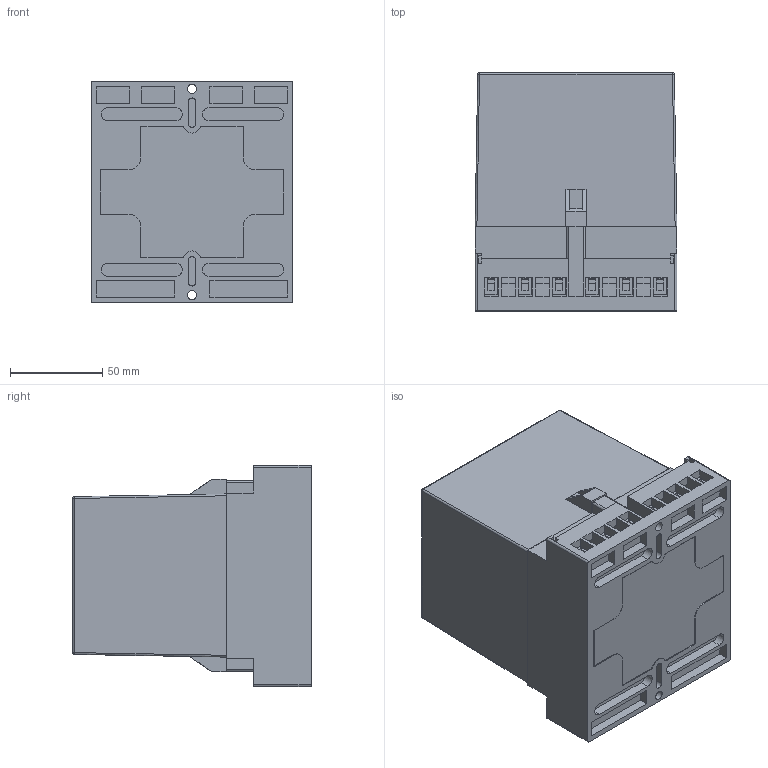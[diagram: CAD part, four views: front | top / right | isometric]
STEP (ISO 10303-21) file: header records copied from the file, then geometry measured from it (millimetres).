
FILE_DESCRIPTION (( 'STEP AP214' ), '1' );
FILE_NAME ('3d_e854_110x125x132.step', '2023-01-19T08:08:21', ( 'dimon' ), ( '' ), 'SwSTEP 2.0', 'SolidWorks 2021', '' );
FILE_SCHEMA (( 'AUTOMOTIVE_DESIGN' ));
Length unit declared in the file: millimetre
Products named in the file (7): Êðûøêà âåðõí2; Êðåïëåíèå ìåòàëë; Å854_òàáëè÷êà; pan slot head_am_B18.6.7M - M3 x 0.5 x 8 Slotted PHMS --8N; ﾎ魵瑙韃; pan slot head_am_B18.6.7M - M2 x 0.4 x 4 Slotted PHMS --4N; 3d_e854_110x125x132
Assembly tree (29 placements, depth 2):
  3d_e854_110x125x132
    ﾎ魵瑙韃
    Êðåïëåíèå ìåòàëë  x12
    pan slot head_am_B18.6.7M - M3 x 0.5 x 8 Slotted PHMS --8N  x12
    Å854_òàáëè÷êà
    pan slot head_am_B18.6.7M - M2 x 0.4 x 4 Slotted PHMS --4N  x2
    Êðûøêà âåðõí2
Bounding box: 109.5 x 129.3 x 120 mm (x, y, z)
Volume: 1282729.4 mm3; surface area: 147612.3 mm2
Topology: 41 solids, 41 shells, 3312 faces, 8679 edges, 5693 vertices
Faces by surface type: plane 2006, bspline 907, cylinder 333, sphere 52, torus 14
Full cylindrical faces by diameter (mm): 0.84 x12, 2 x2, 3 x24, 4 x2, 4.9 x2, 5.6 x12, 9.6 x1
Entity records: 151800 total; most frequent: CARTESIAN_POINT 70026, ORIENTED_EDGE 14534, DIRECTION 9333, EDGE_CURVE 7267, VECTOR 5259, LINE 5259, VERTEX_POINT 4846, EDGE_LOOP 3071
